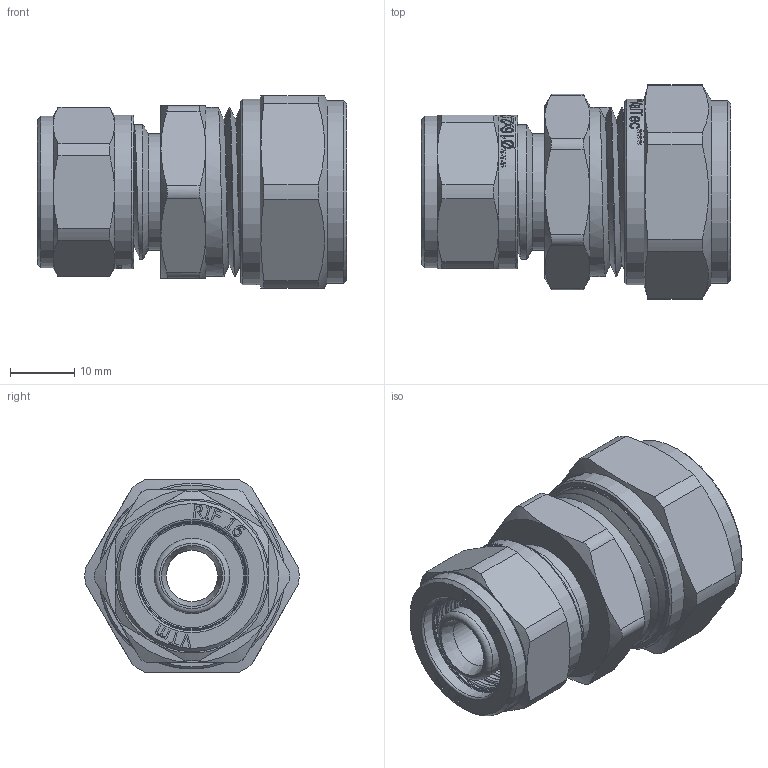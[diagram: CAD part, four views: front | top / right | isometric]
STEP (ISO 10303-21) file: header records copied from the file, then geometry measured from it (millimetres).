
FILE_DESCRIPTION(/* description */ (''),/* implementation_level */ '2;1');
FILE_NAME(/* name */ 'E:\Артём\00000\Работа удаленка\Обжимные фитинги\VTm.303.N.002016.stp',/* time_stamp */ '2020-06-10T15:36:07+03:00',/* author */ ('BeN_GaN'),/* organization */ (''),/* preprocessor_version */ 'ST-DEVELOPER v18',/* originating_system */ 'Autodesk Inventor 2020',/* authorisation */ '');
FILE_SCHEMA (('AUTOMOTIVE_DESIGN { 1 0 10303 214 3 1 1 }'));
Length unit declared in the file: millimetre
Products named in the file (1): VTm.303.N.002016
Bounding box: 48.25 x 33.43 x 30 mm (x, y, z)
Volume: 18306.8 mm3; surface area: 13612.3 mm2
Topology: 1 solids, 3 shells, 1261 faces, 3523 edges, 2376 vertices
Faces by surface type: bspline 682, plane 341, cylinder 145, torus 48, cone 45
Full cylindrical faces by diameter (mm): 8 x1, 9.4 x2, 11.5 x1, 11.75 x4, 13.4 x2, 15.75 x4, 16.124 x4, 16.2 x1, 16.724 x5, 17.124 x1, 18.2 x1, 18.724 x1, 19.986 x4, 20.2 x1, 20.728 x5, 21 x2, 22.8 x2, 23.201 x1, 23.624 x1, 24 x1, 24.2 x1, 26.4 x3, 28.5 x1, 29 x1
Entity records: 52054 total; most frequent: CARTESIAN_POINT 23866, ORIENTED_EDGE 7046, DIRECTION 3823, EDGE_CURVE 3523, VERTEX_POINT 2376, LINE 1449, VECTOR 1449, B_SPLINE_CURVE_WITH_KNOTS 1407
